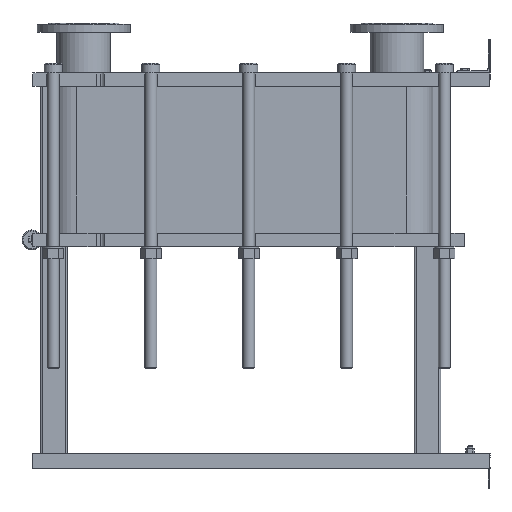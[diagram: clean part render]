
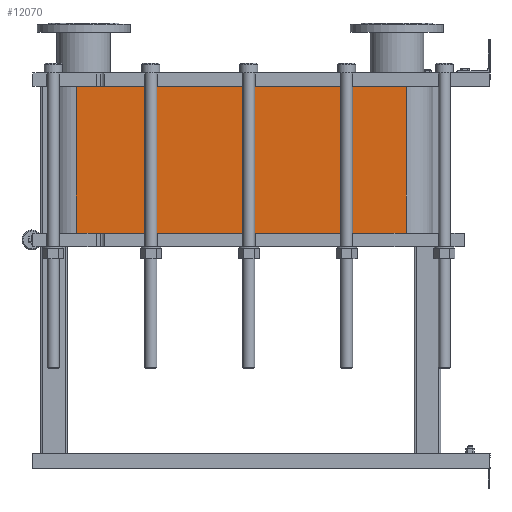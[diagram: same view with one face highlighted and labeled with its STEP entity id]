
A CAD part, left-side view. The second image highlights one B-rep face of the part: STEP entity #12070.
In plain terms, the highlighted planar face has unit normal (-1, 0, 0).
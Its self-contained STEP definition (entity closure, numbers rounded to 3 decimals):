
#1064=LINE('',#21140,#2164);
#1065=LINE('',#21144,#2165);
#1066=LINE('',#21146,#2166);
#1067=LINE('',#21147,#2167);
#2164=VECTOR('',#15790,10.);
#2165=VECTOR('',#15795,10.);
#2166=VECTOR('',#15796,10.);
#2167=VECTOR('',#15797,10.);
#3304=FACE_OUTER_BOUND('',#4091,.T.);
#4091=EDGE_LOOP('',(#9793,#9794,#9795,#9796));
#5677=VERTEX_POINT('',#21137);
#5678=VERTEX_POINT('',#21139);
#5679=VERTEX_POINT('',#21143);
#5680=VERTEX_POINT('',#21145);
#7118=EDGE_CURVE('',#5678,#5677,#1064,.T.);
#7120=EDGE_CURVE('',#5677,#5679,#1065,.T.);
#7121=EDGE_CURVE('',#5680,#5679,#1066,.T.);
#7122=EDGE_CURVE('',#5680,#5678,#1067,.T.);
#9793=ORIENTED_EDGE('',*,*,#7120,.T.);
#9794=ORIENTED_EDGE('',*,*,#7121,.F.);
#9795=ORIENTED_EDGE('',*,*,#7122,.T.);
#9796=ORIENTED_EDGE('',*,*,#7118,.T.);
#11441=PLANE('',#13191);
#12070=ADVANCED_FACE('',(#3304),#11441,.T.);
#13191=AXIS2_PLACEMENT_3D('',#21142,#15793,#15794);
#15790=DIRECTION('',(0.,0.,-1.));
#15793=DIRECTION('center_axis',(-1.,0.,0.));
#15794=DIRECTION('ref_axis',(0.,1.,0.));
#15795=DIRECTION('',(0.,-1.,0.));
#15796=DIRECTION('',(0.,0.,-1.));
#15797=DIRECTION('',(0.,1.,0.));
#21137=CARTESIAN_POINT('',(-248.152,1243.818,-441.6));
#21139=CARTESIAN_POINT('',(-248.152,1243.818,0.));
#21140=CARTESIAN_POINT('',(-248.152,1243.818,0.));
#21142=CARTESIAN_POINT('Origin',(-248.152,251.818,0.));
#21143=CARTESIAN_POINT('',(-248.152,251.818,-441.6));
#21144=CARTESIAN_POINT('',(-248.152,499.818,-441.6));
#21145=CARTESIAN_POINT('',(-248.152,251.818,0.));
#21146=CARTESIAN_POINT('',(-248.152,251.818,0.));
#21147=CARTESIAN_POINT('',(-248.152,251.818,0.));
